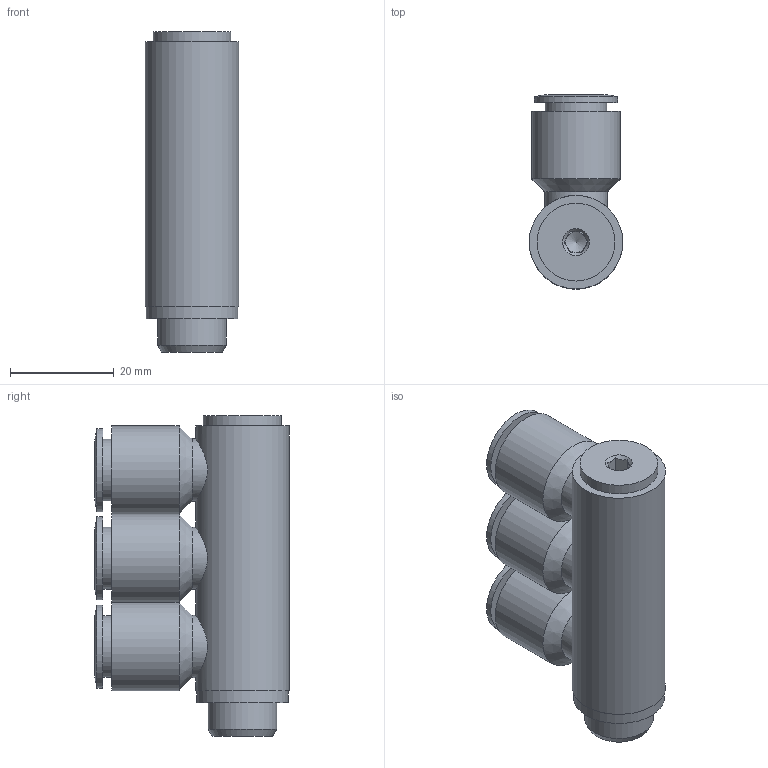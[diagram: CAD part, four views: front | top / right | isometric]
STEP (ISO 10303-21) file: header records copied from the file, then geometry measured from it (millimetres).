
FILE_DESCRIPTION((''),'2;1');
FILE_NAME('C:\Documents and Settings\rivolro1\Documenti\copia di Raccordi\PLASTICA\T34XXXX\T341014.stp','2007-11-03T09:17:30',('Rivolro1'),(''),'Autodesk Inventor 2008','Autodesk Inventor 2008','');
FILE_SCHEMA(('AUTOMOTIVE_DESIGN { 1 0 10303 214 1 1 1 1 }'));
Length unit declared in the file: millimetre
Products named in the file (1): T341014
Bounding box: 18 x 37.4 x 61.8 mm (x, y, z)
Volume: 20313.9 mm3; surface area: 10496.1 mm2
Topology: 1 solids, 1 shells, 65 faces, 130 edges, 81 vertices
Faces by surface type: plane 26, cylinder 17, bspline 15, cone 7
Full cylindrical faces by diameter (mm): 11.9 x3, 12 x3, 13.2 x1, 15 x1, 16 x3, 17 x2, 17.6 x1, 18 x1
Entity records: 1875 total; most frequent: CARTESIAN_POINT 650, DIRECTION 234, ORIENTED_EDGE 184, EDGE_LOOP 112, AXIS2_PLACEMENT_3D 106, EDGE_CURVE 92, VERTEX_POINT 72, FACE_OUTER_BOUND 65
